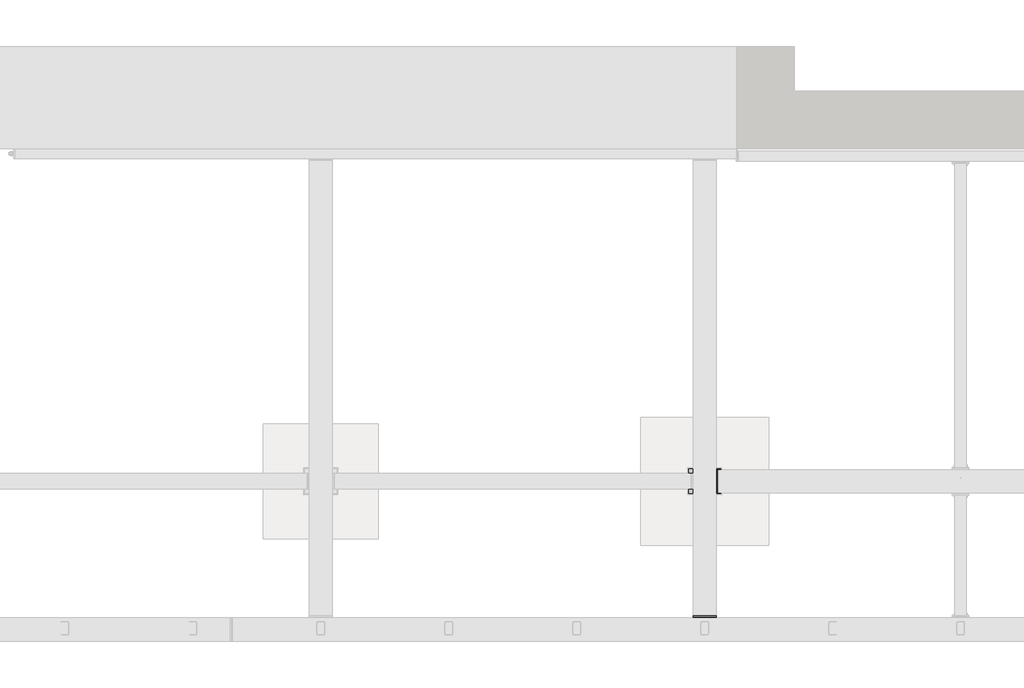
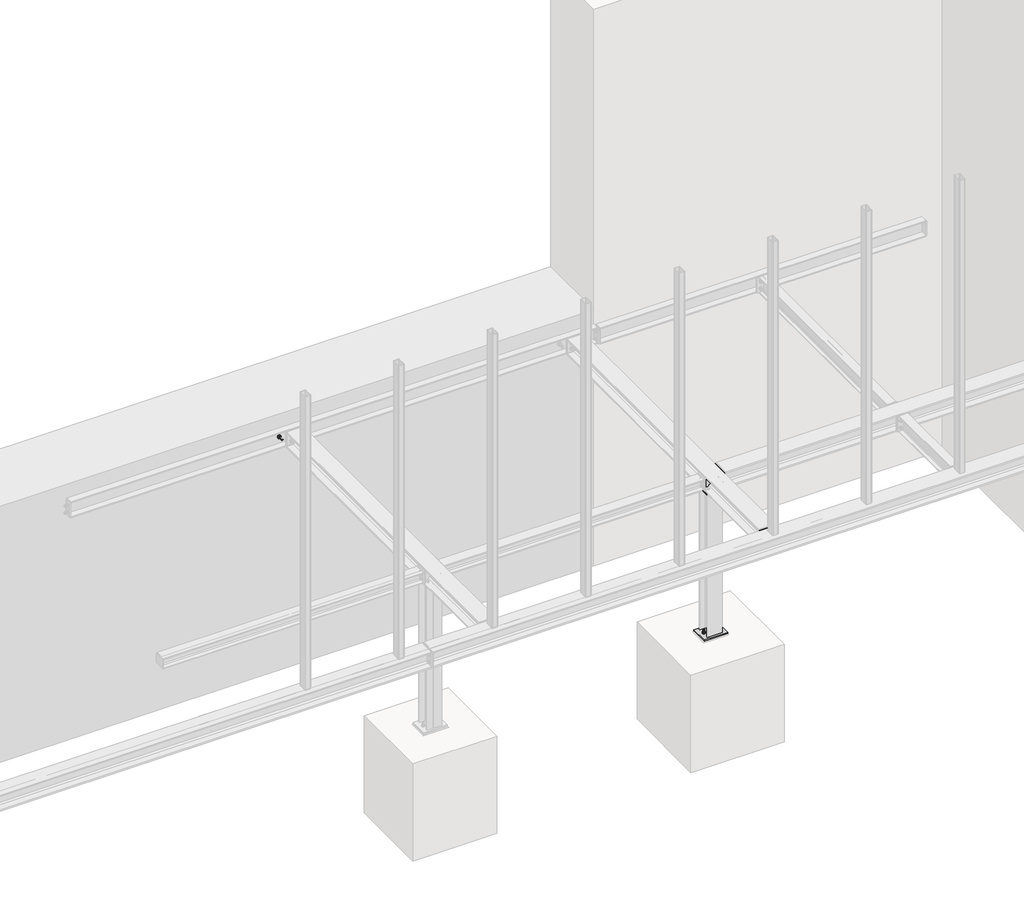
# One storey, part 12 of 31: 12 proxies.
"""IFC4 building model written with IfcOpenShell, lengths in millimetres."""

from ifc_helpers import new_model, si_unit, point, frame, frame_2d, origin, place, context, project, spatial, polyline, circle_curve, trimmed, segment, composite_curve, outline, extrude, element, save

model = new_model("IFC4")

# Units and contexts
model_context = context("Model", 3, world=origin())
ifc_project = project(units=[si_unit("LENGTHUNIT", "METRE", prefix="MILLI")], contexts=[model_context])

# Site, building, storey
site = spatial("IfcSite", under=ifc_project)
building = spatial("IfcBuilding", under=site)
storey = spatial("IfcBuildingStorey", under=building, Name="Základy", Elevation=-1200.0)

# Proxies
placement = place(None, origin())
element("IfcBuildingElementProxy", 1, Name="PLECH", ObjectType="PLECH", at=placement, inside=storey, context=model_context, shape_type="SweptSolid", body=[
    extrude(outline(polyline([(12140.0, 1170.0), (12140.0, 1350.0), (12150.0, 1350.0), (12150.0, 1170.0), (12140.0, 1170.0)])), frame((0.0, 0.0, -332.0), z_axis=(0.0, 0.0, 1.0), x_axis=(1.0, 0.0, 0.0)), (0.0, 0.0, 1.0), 164.0),
])
element("IfcBuildingElementProxy", 2, Name="PLECH", ObjectType="PLECH", at=placement, inside=storey, context=model_context, shape_type="SweptSolid", body=[
    extrude(outline(composite_curve([segment(polyline([(-174.0, 12140.0), (-174.0, 12079.5)]), True, "CONTINUOUS"), segment(trimmed(circle_curve(frame_2d((-174.0, 12054.5)), 25.0), [point((-174.0, 12079.5))], [point((-199.0, 12054.5))], True, "CARTESIAN"), True, "CONTINUOUS"), segment(polyline([(-199.0, 12054.5), (-301.0, 12054.5)]), True, "CONTINUOUS"), segment(trimmed(circle_curve(frame_2d((-326.0, 12054.5)), 25.0), [point((-301.0, 12054.5))], [point((-326.0, 12079.5))], True, "CARTESIAN"), True, "CONTINUOUS"), segment(polyline([(-326.0, 12079.5), (-326.0, 12140.0), (-174.0, 12140.0)]), True, "CONTINUOUS")], self_intersect=False)), frame((0.0, 1256.0, 0.0), z_axis=(0.0, 1.0, 0.0), x_axis=(0.0, 0.0, 1.0)), (0.0, 0.0, 1.0), 8.0),
])
element("IfcBuildingElementProxy", 3, Name="PLECH", ObjectType="PLECH", at=placement, inside=storey, context=model_context, shape_type="SweptSolid", body=[
    extrude(outline(composite_curve([segment(polyline([(-174.0, 11960.0), (-326.0, 11960.0), (-326.0, 12020.5)]), True, "CONTINUOUS"), segment(trimmed(circle_curve(frame_2d((-326.0, 12045.5)), 25.0), [point((-326.0, 12020.5))], [point((-301.0, 12045.5))], True, "CARTESIAN"), True, "CONTINUOUS"), segment(polyline([(-301.0, 12045.5), (-199.0, 12045.5)]), True, "CONTINUOUS"), segment(trimmed(circle_curve(frame_2d((-174.0, 12045.5)), 25.0), [point((-199.0, 12045.5))], [point((-174.0, 12020.5))], True, "CARTESIAN"), True, "CONTINUOUS"), segment(polyline([(-174.0, 12020.5), (-174.0, 11960.0)]), True, "CONTINUOUS")], self_intersect=False)), frame((0.0, 1256.0, 0.0), z_axis=(0.0, 1.0, 0.0), x_axis=(0.0, 0.0, 1.0)), (0.0, 0.0, 1.0), 8.0),
])
element("IfcBuildingElementProxy", 4, Name="PLECH", ObjectType="PLECH", at=placement, inside=storey, context=model_context, shape_type="SweptSolid", body=[
    extrude(outline(polyline([(11960.0, 210.0), (12140.0, 210.0), (12140.0, 200.0), (11960.0, 200.0), (11960.0, 210.0)])), frame((0.0, 0.0, -332.0), z_axis=(0.0, 0.0, 1.0), x_axis=(1.0, 0.0, 0.0)), (0.0, 0.0, 1.0), 164.0),
])
element("IfcBuildingElementProxy", 5, Name="PLECH", ObjectType="PLECH", at=placement, inside=storey, context=model_context, shape_type="SweptSolid", body=[
    extrude(outline(polyline([(12175.0, 1356.0), (12175.0, 1164.0), (11925.0, 1164.0), (11925.0, 1356.0), (12175.0, 1356.0)])), frame((0.0, 0.0, -1990.0), z_axis=(0.0, 0.0, 1.0), x_axis=(1.0, 0.0, 0.0)), (0.0, 0.0, 1.0), 15.0),
])
element("IfcBuildingElementProxy", 6, Name="PLECH", ObjectType="PLECH", at=placement, inside=storey, context=model_context, shape_type="SweptSolid", body=[
    extrude(outline(polyline([(12140.0, 1346.0), (12140.0, 1174.0), (11960.0, 1174.0), (11960.0, 1346.0), (12140.0, 1346.0)])), frame((0.0, 0.0, -350.0), z_axis=(0.0, 0.0, 1.0), x_axis=(1.0, 0.0, 0.0)), (0.0, 0.0, 1.0), 10.0),
])
element("IfcBuildingElementProxy", 7, Name="PLECH", ObjectType="PLECH", at=placement, inside=storey, context=model_context, shape_type="SweptSolid", body=[
    extrude(outline(composite_curve([segment(polyline([(190.0, -174.0), (190.0, -326.0), (124.25, -326.0)]), True, "CONTINUOUS"), segment(trimmed(circle_curve(frame_2d((104.25, -326.0)), 20.0), [point((124.25, -326.0))], [point((104.25, -306.0))], True, "CARTESIAN"), True, "CONTINUOUS"), segment(polyline([(104.25, -306.0), (104.25, -194.0)]), True, "CONTINUOUS"), segment(trimmed(circle_curve(frame_2d((104.25, -174.0)), 20.0), [point((104.25, -194.0))], [point((124.25, -174.0))], True, "CARTESIAN"), True, "CONTINUOUS"), segment(polyline([(124.25, -174.0), (190.0, -174.0)]), True, "CONTINUOUS")], self_intersect=False)), frame((12046.0, 0.0, 0.0), z_axis=(1.0, 0.0, 0.0), x_axis=(0.0, 1.0, 0.0)), (0.0, 0.0, 1.0), 8.0),
])
element("IfcBuildingElementProxy", 8, Name="PLECH", ObjectType="PLECH", at=placement, inside=storey, context=model_context, shape_type="SweptSolid", body=[
    extrude(outline(polyline([(11960.0, 200.0), (12140.0, 200.0), (12140.0, 190.0), (11960.0, 190.0), (11960.0, 200.0)])), frame((0.0, 0.0, -332.0), z_axis=(0.0, 0.0, 1.0), x_axis=(1.0, 0.0, 0.0)), (0.0, 0.0, 1.0), 164.0),
])
element("IfcBuildingElementProxy", 9, Name="Bolt assembly", ObjectType="Bolt assembly", at=placement, inside=storey, context=model_context, shape_type="SweptSolid", body=[
    extrude(outline(composite_curve([segment(trimmed(circle_curve(frame_2d((1305.0, -210.0)), 8.5), [point((1305.0, -218.5))], [point((1305.0, -201.5))], False, "CARTESIAN"), True, "CONTINUOUS"), segment(trimmed(circle_curve(frame_2d((1305.0, -210.0)), 8.5), [point((1305.0, -201.5))], [point((1305.0, -218.5))], False, "CARTESIAN"), True, "CONTINUOUS")], self_intersect=False)), frame((12140.1, 0.0, 0.0), z_axis=(1.0, 0.0, 0.0), x_axis=(0.0, 1.0, 0.0)), (0.0, 0.0, 1.0), 10.0),
    extrude(outline(polyline([(1305.0, -223.8564065), (1293.0, -216.9282032), (1293.0, -203.0717968), (1305.0, -196.1435935), (1317.0, -203.0717968), (1317.0, -216.9282032), (1305.0, -223.8564065)])), frame((12127.0, 0.0, 0.0), z_axis=(1.0, 0.0, 0.0), x_axis=(0.0, 1.0, 0.0)), (0.0, 0.0, 1.0), 10.0),
    extrude(outline(composite_curve([segment(trimmed(circle_curve(frame_2d((1305.0, -210.0)), 8.0), [point((1305.0, -218.0))], [point((1305.0, -202.0))], False, "CARTESIAN"), True, "CONTINUOUS"), segment(trimmed(circle_curve(frame_2d((1305.0, -210.0)), 8.0), [point((1305.0, -202.0))], [point((1305.0, -218.0))], False, "CARTESIAN"), True, "CONTINUOUS")], self_intersect=False)), frame((12137.0, 0.0, 0.0), z_axis=(1.0, 0.0, 0.0), x_axis=(0.0, 1.0, 0.0)), (0.0, 0.0, 1.0), 45.0),
    extrude(outline(composite_curve([segment(trimmed(circle_curve(frame_2d((1305.0, -210.0)), 15.0), [point((1305.0, -225.0))], [point((1305.0, -195.0))], False, "CARTESIAN"), True, "CONTINUOUS"), segment(trimmed(circle_curve(frame_2d((1305.0, -210.0)), 15.0), [point((1305.0, -195.0))], [point((1305.0, -225.0))], False, "CARTESIAN"), True, "CONTINUOUS")], self_intersect=False)), frame((12137.0, 0.0, 0.0), z_axis=(1.0, 0.0, 0.0), x_axis=(0.0, 1.0, 0.0)), (0.0, 0.0, 1.0), 3.0),
    extrude(outline(composite_curve([segment(trimmed(circle_curve(frame_2d((1305.0, -210.0)), 15.0), [point((1305.0, -225.0))], [point((1305.0, -195.0))], False, "CARTESIAN"), True, "CONTINUOUS"), segment(trimmed(circle_curve(frame_2d((1305.0, -210.0)), 15.0), [point((1305.0, -195.0))], [point((1305.0, -225.0))], False, "CARTESIAN"), True, "CONTINUOUS")], self_intersect=False)), frame((12160.0, 0.0, 0.0), z_axis=(1.0, 0.0, 0.0), x_axis=(0.0, 1.0, 0.0)), (0.0, 0.0, 1.0), 3.0),
    extrude(outline(polyline([(1305.0, -225.4441197), (1291.625, -217.7220599), (1291.625, -202.2779401), (1305.0, -194.5558803), (1318.375, -202.2779401), (1318.375, -217.7220599), (1305.0, -225.4441197)])), frame((12163.0, 0.0, 0.0), z_axis=(1.0, 0.0, 0.0), x_axis=(0.0, 1.0, 0.0)), (0.0, 0.0, 1.0), 13.0),
    extrude(outline(composite_curve([segment(trimmed(circle_curve(frame_2d((1305.0, -210.0)), 8.5), [point((1305.0, -218.5))], [point((1305.0, -201.5))], False, "CARTESIAN"), True, "CONTINUOUS"), segment(trimmed(circle_curve(frame_2d((1305.0, -210.0)), 8.5), [point((1305.0, -201.5))], [point((1305.0, -218.5))], False, "CARTESIAN"), True, "CONTINUOUS")], self_intersect=False)), frame((12149.9, 0.0, 0.0), z_axis=(1.0, 0.0, 0.0), x_axis=(0.0, 1.0, 0.0)), (0.0, 0.0, 1.0), 10.1),
    extrude(outline(composite_curve([segment(trimmed(circle_curve(frame_2d((1305.0, -290.0)), 8.5), [point((1305.0, -298.5))], [point((1305.0, -281.5))], False, "CARTESIAN"), True, "CONTINUOUS"), segment(trimmed(circle_curve(frame_2d((1305.0, -290.0)), 8.5), [point((1305.0, -281.5))], [point((1305.0, -298.5))], False, "CARTESIAN"), True, "CONTINUOUS")], self_intersect=False)), frame((12140.1, 0.0, 0.0), z_axis=(1.0, 0.0, 0.0), x_axis=(0.0, 1.0, 0.0)), (0.0, 0.0, 1.0), 10.0),
    extrude(outline(polyline([(1305.0, -303.8564065), (1293.0, -296.9282032), (1293.0, -283.0717968), (1305.0, -276.1435935), (1317.0, -283.0717968), (1317.0, -296.9282032), (1305.0, -303.8564065)])), frame((12127.0, 0.0, 0.0), z_axis=(1.0, 0.0, 0.0), x_axis=(0.0, 1.0, 0.0)), (0.0, 0.0, 1.0), 10.0),
    extrude(outline(composite_curve([segment(trimmed(circle_curve(frame_2d((1305.0, -290.0)), 8.0), [point((1305.0, -298.0))], [point((1305.0, -282.0))], False, "CARTESIAN"), True, "CONTINUOUS"), segment(trimmed(circle_curve(frame_2d((1305.0, -290.0)), 8.0), [point((1305.0, -282.0))], [point((1305.0, -298.0))], False, "CARTESIAN"), True, "CONTINUOUS")], self_intersect=False)), frame((12137.0, 0.0, 0.0), z_axis=(1.0, 0.0, 0.0), x_axis=(0.0, 1.0, 0.0)), (0.0, 0.0, 1.0), 45.0),
    extrude(outline(composite_curve([segment(trimmed(circle_curve(frame_2d((1305.0, -290.0)), 15.0), [point((1305.0, -305.0))], [point((1305.0, -275.0))], False, "CARTESIAN"), True, "CONTINUOUS"), segment(trimmed(circle_curve(frame_2d((1305.0, -290.0)), 15.0), [point((1305.0, -275.0))], [point((1305.0, -305.0))], False, "CARTESIAN"), True, "CONTINUOUS")], self_intersect=False)), frame((12137.0, 0.0, 0.0), z_axis=(1.0, 0.0, 0.0), x_axis=(0.0, 1.0, 0.0)), (0.0, 0.0, 1.0), 3.0),
    extrude(outline(composite_curve([segment(trimmed(circle_curve(frame_2d((1305.0, -290.0)), 15.0), [point((1305.0, -305.0))], [point((1305.0, -275.0))], False, "CARTESIAN"), True, "CONTINUOUS"), segment(trimmed(circle_curve(frame_2d((1305.0, -290.0)), 15.0), [point((1305.0, -275.0))], [point((1305.0, -305.0))], False, "CARTESIAN"), True, "CONTINUOUS")], self_intersect=False)), frame((12160.0, 0.0, 0.0), z_axis=(1.0, 0.0, 0.0), x_axis=(0.0, 1.0, 0.0)), (0.0, 0.0, 1.0), 3.0),
    extrude(outline(polyline([(1305.0, -305.4441197), (1291.625, -297.7220599), (1291.625, -282.2779401), (1305.0, -274.5558803), (1318.375, -282.2779401), (1318.375, -297.7220599), (1305.0, -305.4441197)])), frame((12163.0, 0.0, 0.0), z_axis=(1.0, 0.0, 0.0), x_axis=(0.0, 1.0, 0.0)), (0.0, 0.0, 1.0), 13.0),
    extrude(outline(composite_curve([segment(trimmed(circle_curve(frame_2d((1305.0, -290.0)), 8.5), [point((1305.0, -298.5))], [point((1305.0, -281.5))], False, "CARTESIAN"), True, "CONTINUOUS"), segment(trimmed(circle_curve(frame_2d((1305.0, -290.0)), 8.5), [point((1305.0, -281.5))], [point((1305.0, -298.5))], False, "CARTESIAN"), True, "CONTINUOUS")], self_intersect=False)), frame((12149.9, 0.0, 0.0), z_axis=(1.0, 0.0, 0.0), x_axis=(0.0, 1.0, 0.0)), (0.0, 0.0, 1.0), 10.1),
    extrude(outline(composite_curve([segment(trimmed(circle_curve(frame_2d((1215.0, -210.0)), 8.5), [point((1215.0, -218.5))], [point((1215.0, -201.5))], False, "CARTESIAN"), True, "CONTINUOUS"), segment(trimmed(circle_curve(frame_2d((1215.0, -210.0)), 8.5), [point((1215.0, -201.5))], [point((1215.0, -218.5))], False, "CARTESIAN"), True, "CONTINUOUS")], self_intersect=False)), frame((12140.1, 0.0, 0.0), z_axis=(1.0, 0.0, 0.0), x_axis=(0.0, 1.0, 0.0)), (0.0, 0.0, 1.0), 10.0),
    extrude(outline(polyline([(1215.0, -223.8564065), (1203.0, -216.9282032), (1203.0, -203.0717968), (1215.0, -196.1435935), (1227.0, -203.0717968), (1227.0, -216.9282032), (1215.0, -223.8564065)])), frame((12127.0, 0.0, 0.0), z_axis=(1.0, 0.0, 0.0), x_axis=(0.0, 1.0, 0.0)), (0.0, 0.0, 1.0), 10.0),
    extrude(outline(composite_curve([segment(trimmed(circle_curve(frame_2d((1215.0, -210.0)), 8.0), [point((1215.0, -218.0))], [point((1215.0, -202.0))], False, "CARTESIAN"), True, "CONTINUOUS"), segment(trimmed(circle_curve(frame_2d((1215.0, -210.0)), 8.0), [point((1215.0, -202.0))], [point((1215.0, -218.0))], False, "CARTESIAN"), True, "CONTINUOUS")], self_intersect=False)), frame((12137.0, 0.0, 0.0), z_axis=(1.0, 0.0, 0.0), x_axis=(0.0, 1.0, 0.0)), (0.0, 0.0, 1.0), 45.0),
    extrude(outline(composite_curve([segment(trimmed(circle_curve(frame_2d((1215.0, -210.0)), 15.0), [point((1215.0, -225.0))], [point((1215.0, -195.0))], False, "CARTESIAN"), True, "CONTINUOUS"), segment(trimmed(circle_curve(frame_2d((1215.0, -210.0)), 15.0), [point((1215.0, -195.0))], [point((1215.0, -225.0))], False, "CARTESIAN"), True, "CONTINUOUS")], self_intersect=False)), frame((12137.0, 0.0, 0.0), z_axis=(1.0, 0.0, 0.0), x_axis=(0.0, 1.0, 0.0)), (0.0, 0.0, 1.0), 3.0),
    extrude(outline(composite_curve([segment(trimmed(circle_curve(frame_2d((1215.0, -210.0)), 15.0), [point((1215.0, -225.0))], [point((1215.0, -195.0))], False, "CARTESIAN"), True, "CONTINUOUS"), segment(trimmed(circle_curve(frame_2d((1215.0, -210.0)), 15.0), [point((1215.0, -195.0))], [point((1215.0, -225.0))], False, "CARTESIAN"), True, "CONTINUOUS")], self_intersect=False)), frame((12160.0, 0.0, 0.0), z_axis=(1.0, 0.0, 0.0), x_axis=(0.0, 1.0, 0.0)), (0.0, 0.0, 1.0), 3.0),
    extrude(outline(polyline([(1215.0, -225.4441197), (1201.625, -217.7220599), (1201.625, -202.2779401), (1215.0, -194.5558803), (1228.375, -202.2779401), (1228.375, -217.7220599), (1215.0, -225.4441197)])), frame((12163.0, 0.0, 0.0), z_axis=(1.0, 0.0, 0.0), x_axis=(0.0, 1.0, 0.0)), (0.0, 0.0, 1.0), 13.0),
    extrude(outline(composite_curve([segment(trimmed(circle_curve(frame_2d((1215.0, -210.0)), 8.5), [point((1215.0, -218.5))], [point((1215.0, -201.5))], False, "CARTESIAN"), True, "CONTINUOUS"), segment(trimmed(circle_curve(frame_2d((1215.0, -210.0)), 8.5), [point((1215.0, -201.5))], [point((1215.0, -218.5))], False, "CARTESIAN"), True, "CONTINUOUS")], self_intersect=False)), frame((12149.9, 0.0, 0.0), z_axis=(1.0, 0.0, 0.0), x_axis=(0.0, 1.0, 0.0)), (0.0, 0.0, 1.0), 10.1),
    extrude(outline(composite_curve([segment(trimmed(circle_curve(frame_2d((1215.0, -290.0)), 8.5), [point((1215.0, -298.5))], [point((1215.0, -281.5))], False, "CARTESIAN"), True, "CONTINUOUS"), segment(trimmed(circle_curve(frame_2d((1215.0, -290.0)), 8.5), [point((1215.0, -281.5))], [point((1215.0, -298.5))], False, "CARTESIAN"), True, "CONTINUOUS")], self_intersect=False)), frame((12140.1, 0.0, 0.0), z_axis=(1.0, 0.0, 0.0), x_axis=(0.0, 1.0, 0.0)), (0.0, 0.0, 1.0), 10.0),
    extrude(outline(polyline([(1215.0, -303.8564065), (1203.0, -296.9282032), (1203.0, -283.0717968), (1215.0, -276.1435935), (1227.0, -283.0717968), (1227.0, -296.9282032), (1215.0, -303.8564065)])), frame((12127.0, 0.0, 0.0), z_axis=(1.0, 0.0, 0.0), x_axis=(0.0, 1.0, 0.0)), (0.0, 0.0, 1.0), 10.0),
    extrude(outline(composite_curve([segment(trimmed(circle_curve(frame_2d((1215.0, -290.0)), 8.0), [point((1215.0, -298.0))], [point((1215.0, -282.0))], False, "CARTESIAN"), True, "CONTINUOUS"), segment(trimmed(circle_curve(frame_2d((1215.0, -290.0)), 8.0), [point((1215.0, -282.0))], [point((1215.0, -298.0))], False, "CARTESIAN"), True, "CONTINUOUS")], self_intersect=False)), frame((12137.0, 0.0, 0.0), z_axis=(1.0, 0.0, 0.0), x_axis=(0.0, 1.0, 0.0)), (0.0, 0.0, 1.0), 45.0),
    extrude(outline(composite_curve([segment(trimmed(circle_curve(frame_2d((1215.0, -290.0)), 15.0), [point((1215.0, -305.0))], [point((1215.0, -275.0))], False, "CARTESIAN"), True, "CONTINUOUS"), segment(trimmed(circle_curve(frame_2d((1215.0, -290.0)), 15.0), [point((1215.0, -275.0))], [point((1215.0, -305.0))], False, "CARTESIAN"), True, "CONTINUOUS")], self_intersect=False)), frame((12137.0, 0.0, 0.0), z_axis=(1.0, 0.0, 0.0), x_axis=(0.0, 1.0, 0.0)), (0.0, 0.0, 1.0), 3.0),
    extrude(outline(composite_curve([segment(trimmed(circle_curve(frame_2d((1215.0, -290.0)), 15.0), [point((1215.0, -305.0))], [point((1215.0, -275.0))], False, "CARTESIAN"), True, "CONTINUOUS"), segment(trimmed(circle_curve(frame_2d((1215.0, -290.0)), 15.0), [point((1215.0, -275.0))], [point((1215.0, -305.0))], False, "CARTESIAN"), True, "CONTINUOUS")], self_intersect=False)), frame((12160.0, 0.0, 0.0), z_axis=(1.0, 0.0, 0.0), x_axis=(0.0, 1.0, 0.0)), (0.0, 0.0, 1.0), 3.0),
    extrude(outline(polyline([(1215.0, -305.4441197), (1201.625, -297.7220599), (1201.625, -282.2779401), (1215.0, -274.5558803), (1228.375, -282.2779401), (1228.375, -297.7220599), (1215.0, -305.4441197)])), frame((12163.0, 0.0, 0.0), z_axis=(1.0, 0.0, 0.0), x_axis=(0.0, 1.0, 0.0)), (0.0, 0.0, 1.0), 13.0),
    extrude(outline(composite_curve([segment(trimmed(circle_curve(frame_2d((1215.0, -290.0)), 8.5), [point((1215.0, -298.5))], [point((1215.0, -281.5))], False, "CARTESIAN"), True, "CONTINUOUS"), segment(trimmed(circle_curve(frame_2d((1215.0, -290.0)), 8.5), [point((1215.0, -281.5))], [point((1215.0, -298.5))], False, "CARTESIAN"), True, "CONTINUOUS")], self_intersect=False)), frame((12149.9, 0.0, 0.0), z_axis=(1.0, 0.0, 0.0), x_axis=(0.0, 1.0, 0.0)), (0.0, 0.0, 1.0), 10.1),
])
element("IfcBuildingElementProxy", 10, Name="Bolt assembly", ObjectType="Bolt assembly", at=placement, inside=storey, context=model_context, shape_type="SweptSolid", body=[
    extrude(outline(polyline([(11982.7364934, 1260.0), (11978.8682467, 1253.3000002), (11971.1317533, 1253.3000002), (11967.2635066, 1260.0), (11971.1317533, 1266.6999998), (11978.8682467, 1266.6999998), (11982.7364934, 1260.0)])), frame((0.0, 0.0, -2122.0), z_axis=(0.0, 0.0, 1.0), x_axis=(1.0, 0.0, 0.0)), (0.0, 0.0, 1.0), 132.0),
    extrude(outline(composite_curve([segment(trimmed(circle_curve(frame_2d((11975.0, 1260.0)), 8.0), [point((11983.0, 1260.0))], [point((11967.0, 1260.0))], False, "CARTESIAN"), True, "CONTINUOUS"), segment(trimmed(circle_curve(frame_2d((11975.0, 1260.0)), 8.0), [point((11967.0, 1260.0))], [point((11983.0, 1260.0))], False, "CARTESIAN"), True, "CONTINUOUS")], self_intersect=False)), frame((0.0, 0.0, -1990.0), z_axis=(0.0, 0.0, 1.0), x_axis=(1.0, 0.0, 0.0)), (0.0, 0.0, 1.0), 58.0),
    extrude(outline(composite_curve([segment(trimmed(circle_curve(frame_2d((11975.0, 1260.0)), 15.0), [point((11990.0, 1260.0))], [point((11960.0, 1260.0))], False, "CARTESIAN"), True, "CONTINUOUS"), segment(trimmed(circle_curve(frame_2d((11975.0, 1260.0)), 15.0), [point((11960.0, 1260.0))], [point((11990.0, 1260.0))], False, "CARTESIAN"), True, "CONTINUOUS")], self_intersect=False)), frame((0.0, 0.0, -1975.0), z_axis=(0.0, 0.0, 1.0), x_axis=(1.0, 0.0, 0.0)), (0.0, 0.0, 1.0), 3.0),
    extrude(outline(polyline([(11990.4441197, 1260.0), (11982.7220599, 1246.625), (11967.2779401, 1246.625), (11959.5558803, 1260.0), (11967.2779401, 1273.375), (11982.7220599, 1273.375), (11990.4441197, 1260.0)])), frame((0.0, 0.0, -1972.0), z_axis=(0.0, 0.0, 1.0), x_axis=(1.0, 0.0, 0.0)), (0.0, 0.0, 1.0), 13.0),
    extrude(outline(composite_curve([segment(trimmed(circle_curve(frame_2d((11975.0, 1260.0)), 9.0), [point((11984.0, 1260.0))], [point((11966.0, 1260.0))], False, "CARTESIAN"), True, "CONTINUOUS"), segment(trimmed(circle_curve(frame_2d((11975.0, 1260.0)), 9.0), [point((11966.0, 1260.0))], [point((11984.0, 1260.0))], False, "CARTESIAN"), True, "CONTINUOUS")], self_intersect=False)), frame((0.0, 0.0, -1990.0), z_axis=(0.0, 0.0, 1.0), x_axis=(1.0, 0.0, 0.0)), (0.0, 0.0, 1.0), 15.1),
    extrude(outline(polyline([(12132.7364934, 1260.0), (12128.8682467, 1253.3000002), (12121.1317533, 1253.3000002), (12117.2635066, 1260.0), (12121.1317533, 1266.6999998), (12128.8682467, 1266.6999998), (12132.7364934, 1260.0)])), frame((0.0, 0.0, -2122.0), z_axis=(0.0, 0.0, 1.0), x_axis=(1.0, 0.0, 0.0)), (0.0, 0.0, 1.0), 132.0),
    extrude(outline(composite_curve([segment(trimmed(circle_curve(frame_2d((12125.0, 1260.0)), 8.0), [point((12133.0, 1260.0))], [point((12117.0, 1260.0))], False, "CARTESIAN"), True, "CONTINUOUS"), segment(trimmed(circle_curve(frame_2d((12125.0, 1260.0)), 8.0), [point((12117.0, 1260.0))], [point((12133.0, 1260.0))], False, "CARTESIAN"), True, "CONTINUOUS")], self_intersect=False)), frame((0.0, 0.0, -1990.0), z_axis=(0.0, 0.0, 1.0), x_axis=(1.0, 0.0, 0.0)), (0.0, 0.0, 1.0), 58.0),
    extrude(outline(composite_curve([segment(trimmed(circle_curve(frame_2d((12125.0, 1260.0)), 15.0), [point((12140.0, 1260.0))], [point((12110.0, 1260.0))], False, "CARTESIAN"), True, "CONTINUOUS"), segment(trimmed(circle_curve(frame_2d((12125.0, 1260.0)), 15.0), [point((12110.0, 1260.0))], [point((12140.0, 1260.0))], False, "CARTESIAN"), True, "CONTINUOUS")], self_intersect=False)), frame((0.0, 0.0, -1975.0), z_axis=(0.0, 0.0, 1.0), x_axis=(1.0, 0.0, 0.0)), (0.0, 0.0, 1.0), 3.0),
    extrude(outline(polyline([(12140.4441197, 1260.0), (12132.7220599, 1246.625), (12117.2779401, 1246.625), (12109.5558803, 1260.0), (12117.2779401, 1273.375), (12132.7220599, 1273.375), (12140.4441197, 1260.0)])), frame((0.0, 0.0, -1972.0), z_axis=(0.0, 0.0, 1.0), x_axis=(1.0, 0.0, 0.0)), (0.0, 0.0, 1.0), 13.0),
    extrude(outline(composite_curve([segment(trimmed(circle_curve(frame_2d((12125.0, 1260.0)), 9.0), [point((12134.0, 1260.0))], [point((12116.0, 1260.0))], False, "CARTESIAN"), True, "CONTINUOUS"), segment(trimmed(circle_curve(frame_2d((12125.0, 1260.0)), 9.0), [point((12116.0, 1260.0))], [point((12134.0, 1260.0))], False, "CARTESIAN"), True, "CONTINUOUS")], self_intersect=False)), frame((0.0, 0.0, -1990.0), z_axis=(0.0, 0.0, 1.0), x_axis=(1.0, 0.0, 0.0)), (0.0, 0.0, 1.0), 15.1),
])
element("IfcBuildingElementProxy", 11, Name="Bolt assembly", ObjectType="Bolt assembly", at=placement, inside=storey, context=model_context, shape_type="SweptSolid", body=[
    extrude(outline(polyline([(-250.0, 8934.8149546), (-241.5, 8929.9074773), (-241.5, 8920.0925227), (-250.0, 8915.1850454), (-258.5, 8920.0925227), (-258.5, 8929.9074773), (-250.0, 8934.8149546)])), frame((0.0, 3860.0, 0.0), z_axis=(0.0, 1.0, 0.0), x_axis=(0.0, 0.0, 1.0)), (0.0, 0.0, 1.0), 168.0),
    extrude(outline(composite_curve([segment(trimmed(circle_curve(frame_2d((-250.0, 8925.0)), 10.0), [point((-250.0, 8935.0))], [point((-250.0, 8915.0))], False, "CARTESIAN"), True, "CONTINUOUS"), segment(trimmed(circle_curve(frame_2d((-250.0, 8925.0)), 10.0), [point((-250.0, 8915.0))], [point((-250.0, 8935.0))], False, "CARTESIAN"), True, "CONTINUOUS")], self_intersect=False)), frame((0.0, 3788.0, 0.0), z_axis=(0.0, 1.0, 0.0), x_axis=(0.0, 0.0, 1.0)), (0.0, 0.0, 1.0), 72.0),
    extrude(outline(composite_curve([segment(trimmed(circle_curve(frame_2d((-250.0, 8925.0)), 18.5), [point((-250.0, 8943.5))], [point((-250.0, 8906.5))], False, "CARTESIAN"), True, "CONTINUOUS"), segment(trimmed(circle_curve(frame_2d((-250.0, 8925.0)), 18.5), [point((-250.0, 8906.5))], [point((-250.0, 8943.5))], False, "CARTESIAN"), True, "CONTINUOUS")], self_intersect=False)), frame((0.0, 3851.5, 0.0), z_axis=(0.0, 1.0, 0.0), x_axis=(0.0, 0.0, 1.0)), (0.0, 0.0, 1.0), 3.0),
    extrude(outline(polyline([(-250.0, 8942.3205081), (-235.0, 8933.660254), (-235.0, 8916.339746), (-250.0, 8907.6794919), (-265.0, 8916.339746), (-265.0, 8933.660254), (-250.0, 8942.3205081)])), frame((0.0, 3835.5, 0.0), z_axis=(0.0, 1.0, 0.0), x_axis=(0.0, 0.0, 1.0)), (0.0, 0.0, 1.0), 16.0),
    extrude(outline(composite_curve([segment(trimmed(circle_curve(frame_2d((-250.0, 8925.0)), 11.0), [point((-250.0, 8936.0))], [point((-250.0, 8914.0))], False, "CARTESIAN"), True, "CONTINUOUS"), segment(trimmed(circle_curve(frame_2d((-250.0, 8925.0)), 11.0), [point((-250.0, 8914.0))], [point((-250.0, 8936.0))], False, "CARTESIAN"), True, "CONTINUOUS")], self_intersect=False)), frame((0.0, 3854.4, 0.0), z_axis=(0.0, 1.0, 0.0), x_axis=(0.0, 0.0, 1.0)), (0.0, 0.0, 1.0), 5.6),
    extrude(outline(polyline([(-250.0, 9184.8149546), (-241.5, 9179.9074773), (-241.5, 9170.0925227), (-250.0, 9165.1850454), (-258.5, 9170.0925227), (-258.5, 9179.9074773), (-250.0, 9184.8149546)])), frame((0.0, 3860.0, 0.0), z_axis=(0.0, 1.0, 0.0), x_axis=(0.0, 0.0, 1.0)), (0.0, 0.0, 1.0), 168.0),
    extrude(outline(composite_curve([segment(trimmed(circle_curve(frame_2d((-250.0, 9175.0)), 10.0), [point((-250.0, 9185.0))], [point((-250.0, 9165.0))], False, "CARTESIAN"), True, "CONTINUOUS"), segment(trimmed(circle_curve(frame_2d((-250.0, 9175.0)), 10.0), [point((-250.0, 9165.0))], [point((-250.0, 9185.0))], False, "CARTESIAN"), True, "CONTINUOUS")], self_intersect=False)), frame((0.0, 3788.0, 0.0), z_axis=(0.0, 1.0, 0.0), x_axis=(0.0, 0.0, 1.0)), (0.0, 0.0, 1.0), 72.0),
    extrude(outline(composite_curve([segment(trimmed(circle_curve(frame_2d((-250.0, 9175.0)), 18.5), [point((-250.0, 9193.5))], [point((-250.0, 9156.5))], False, "CARTESIAN"), True, "CONTINUOUS"), segment(trimmed(circle_curve(frame_2d((-250.0, 9175.0)), 18.5), [point((-250.0, 9156.5))], [point((-250.0, 9193.5))], False, "CARTESIAN"), True, "CONTINUOUS")], self_intersect=False)), frame((0.0, 3851.5, 0.0), z_axis=(0.0, 1.0, 0.0), x_axis=(0.0, 0.0, 1.0)), (0.0, 0.0, 1.0), 3.0),
    extrude(outline(polyline([(-250.0, 9192.3205081), (-235.0, 9183.660254), (-235.0, 9166.339746), (-250.0, 9157.6794919), (-265.0, 9166.339746), (-265.0, 9183.660254), (-250.0, 9192.3205081)])), frame((0.0, 3835.5, 0.0), z_axis=(0.0, 1.0, 0.0), x_axis=(0.0, 0.0, 1.0)), (0.0, 0.0, 1.0), 16.0),
    extrude(outline(composite_curve([segment(trimmed(circle_curve(frame_2d((-250.0, 9175.0)), 11.0), [point((-250.0, 9186.0))], [point((-250.0, 9164.0))], False, "CARTESIAN"), True, "CONTINUOUS"), segment(trimmed(circle_curve(frame_2d((-250.0, 9175.0)), 11.0), [point((-250.0, 9164.0))], [point((-250.0, 9186.0))], False, "CARTESIAN"), True, "CONTINUOUS")], self_intersect=False)), frame((0.0, 3854.4, 0.0), z_axis=(0.0, 1.0, 0.0), x_axis=(0.0, 0.0, 1.0)), (0.0, 0.0, 1.0), 5.6),
])
element("IfcBuildingElementProxy", 12, Name="Bolt assembly", ObjectType="Bolt assembly", at=placement, inside=storey, context=model_context, shape_type="SweptSolid", body=[
    extrude(outline(composite_curve([segment(trimmed(circle_curve(frame_2d((-290.0, 12005.0)), 9.0), [point((-290.0, 12014.0))], [point((-290.0, 11996.0))], False, "CARTESIAN"), True, "CONTINUOUS"), segment(trimmed(circle_curve(frame_2d((-290.0, 12005.0)), 9.0), [point((-290.0, 11996.0))], [point((-290.0, 12014.0))], False, "CARTESIAN"), True, "CONTINUOUS")], self_intersect=False)), frame((0.0, 190.1, 0.0), z_axis=(0.0, 1.0, 0.0), x_axis=(0.0, 0.0, 1.0)), (0.0, 0.0, 1.0), 10.0),
    extrude(outline(polyline([(-290.0, 12018.8564065), (-278.0, 12011.9282032), (-278.0, 11998.0717968), (-290.0, 11991.1435935), (-302.0, 11998.0717968), (-302.0, 12011.9282032), (-290.0, 12018.8564065)])), frame((0.0, 177.0, 0.0), z_axis=(0.0, 1.0, 0.0), x_axis=(0.0, 0.0, 1.0)), (0.0, 0.0, 1.0), 10.0),
    extrude(outline(composite_curve([segment(trimmed(circle_curve(frame_2d((-290.0, 12005.0)), 8.0), [point((-290.0, 12013.0))], [point((-290.0, 11997.0))], False, "CARTESIAN"), True, "CONTINUOUS"), segment(trimmed(circle_curve(frame_2d((-290.0, 12005.0)), 8.0), [point((-290.0, 11997.0))], [point((-290.0, 12013.0))], False, "CARTESIAN"), True, "CONTINUOUS")], self_intersect=False)), frame((0.0, 187.0, 0.0), z_axis=(0.0, 1.0, 0.0), x_axis=(0.0, 0.0, 1.0)), (0.0, 0.0, 1.0), 50.0),
    extrude(outline(composite_curve([segment(trimmed(circle_curve(frame_2d((-290.0, 12005.0)), 15.0), [point((-290.0, 12020.0))], [point((-290.0, 11990.0))], False, "CARTESIAN"), True, "CONTINUOUS"), segment(trimmed(circle_curve(frame_2d((-290.0, 12005.0)), 15.0), [point((-290.0, 11990.0))], [point((-290.0, 12020.0))], False, "CARTESIAN"), True, "CONTINUOUS")], self_intersect=False)), frame((0.0, 187.0, 0.0), z_axis=(0.0, 1.0, 0.0), x_axis=(0.0, 0.0, 1.0)), (0.0, 0.0, 1.0), 3.0),
    extrude(outline(composite_curve([segment(trimmed(circle_curve(frame_2d((-290.0, 12005.0)), 15.0), [point((-290.0, 12020.0))], [point((-290.0, 11990.0))], False, "CARTESIAN"), True, "CONTINUOUS"), segment(trimmed(circle_curve(frame_2d((-290.0, 12005.0)), 15.0), [point((-290.0, 11990.0))], [point((-290.0, 12020.0))], False, "CARTESIAN"), True, "CONTINUOUS")], self_intersect=False)), frame((0.0, 210.0, 0.0), z_axis=(0.0, 1.0, 0.0), x_axis=(0.0, 0.0, 1.0)), (0.0, 0.0, 1.0), 3.0),
    extrude(outline(polyline([(-290.0, 12020.4441197), (-276.625, 12012.7220599), (-276.625, 11997.2779401), (-290.0, 11989.5558803), (-303.375, 11997.2779401), (-303.375, 12012.7220599), (-290.0, 12020.4441197)])), frame((0.0, 213.0, 0.0), z_axis=(0.0, 1.0, 0.0), x_axis=(0.0, 0.0, 1.0)), (0.0, 0.0, 1.0), 13.0),
    extrude(outline(composite_curve([segment(trimmed(circle_curve(frame_2d((-290.0, 12005.0)), 9.0), [point((-290.0, 12014.0))], [point((-290.0, 11996.0))], False, "CARTESIAN"), True, "CONTINUOUS"), segment(trimmed(circle_curve(frame_2d((-290.0, 12005.0)), 9.0), [point((-290.0, 11996.0))], [point((-290.0, 12014.0))], False, "CARTESIAN"), True, "CONTINUOUS")], self_intersect=False)), frame((0.0, 199.9, 0.0), z_axis=(0.0, 1.0, 0.0), x_axis=(0.0, 0.0, 1.0)), (0.0, 0.0, 1.0), 10.1),
    extrude(outline(composite_curve([segment(trimmed(circle_curve(frame_2d((-290.0, 12095.0)), 9.0), [point((-290.0, 12104.0))], [point((-290.0, 12086.0))], False, "CARTESIAN"), True, "CONTINUOUS"), segment(trimmed(circle_curve(frame_2d((-290.0, 12095.0)), 9.0), [point((-290.0, 12086.0))], [point((-290.0, 12104.0))], False, "CARTESIAN"), True, "CONTINUOUS")], self_intersect=False)), frame((0.0, 190.1, 0.0), z_axis=(0.0, 1.0, 0.0), x_axis=(0.0, 0.0, 1.0)), (0.0, 0.0, 1.0), 10.0),
    extrude(outline(polyline([(-290.0, 12108.8564065), (-278.0, 12101.9282032), (-278.0, 12088.0717968), (-290.0, 12081.1435935), (-302.0, 12088.0717968), (-302.0, 12101.9282032), (-290.0, 12108.8564065)])), frame((0.0, 177.0, 0.0), z_axis=(0.0, 1.0, 0.0), x_axis=(0.0, 0.0, 1.0)), (0.0, 0.0, 1.0), 10.0),
    extrude(outline(composite_curve([segment(trimmed(circle_curve(frame_2d((-290.0, 12095.0)), 8.0), [point((-290.0, 12103.0))], [point((-290.0, 12087.0))], False, "CARTESIAN"), True, "CONTINUOUS"), segment(trimmed(circle_curve(frame_2d((-290.0, 12095.0)), 8.0), [point((-290.0, 12087.0))], [point((-290.0, 12103.0))], False, "CARTESIAN"), True, "CONTINUOUS")], self_intersect=False)), frame((0.0, 187.0, 0.0), z_axis=(0.0, 1.0, 0.0), x_axis=(0.0, 0.0, 1.0)), (0.0, 0.0, 1.0), 50.0),
    extrude(outline(composite_curve([segment(trimmed(circle_curve(frame_2d((-290.0, 12095.0)), 15.0), [point((-290.0, 12110.0))], [point((-290.0, 12080.0))], False, "CARTESIAN"), True, "CONTINUOUS"), segment(trimmed(circle_curve(frame_2d((-290.0, 12095.0)), 15.0), [point((-290.0, 12080.0))], [point((-290.0, 12110.0))], False, "CARTESIAN"), True, "CONTINUOUS")], self_intersect=False)), frame((0.0, 187.0, 0.0), z_axis=(0.0, 1.0, 0.0), x_axis=(0.0, 0.0, 1.0)), (0.0, 0.0, 1.0), 3.0),
    extrude(outline(composite_curve([segment(trimmed(circle_curve(frame_2d((-290.0, 12095.0)), 15.0), [point((-290.0, 12110.0))], [point((-290.0, 12080.0))], False, "CARTESIAN"), True, "CONTINUOUS"), segment(trimmed(circle_curve(frame_2d((-290.0, 12095.0)), 15.0), [point((-290.0, 12080.0))], [point((-290.0, 12110.0))], False, "CARTESIAN"), True, "CONTINUOUS")], self_intersect=False)), frame((0.0, 210.0, 0.0), z_axis=(0.0, 1.0, 0.0), x_axis=(0.0, 0.0, 1.0)), (0.0, 0.0, 1.0), 3.0),
    extrude(outline(polyline([(-290.0, 12110.4441197), (-276.625, 12102.7220599), (-276.625, 12087.2779401), (-290.0, 12079.5558803), (-303.375, 12087.2779401), (-303.375, 12102.7220599), (-290.0, 12110.4441197)])), frame((0.0, 213.0, 0.0), z_axis=(0.0, 1.0, 0.0), x_axis=(0.0, 0.0, 1.0)), (0.0, 0.0, 1.0), 13.0),
    extrude(outline(composite_curve([segment(trimmed(circle_curve(frame_2d((-290.0, 12095.0)), 9.0), [point((-290.0, 12104.0))], [point((-290.0, 12086.0))], False, "CARTESIAN"), True, "CONTINUOUS"), segment(trimmed(circle_curve(frame_2d((-290.0, 12095.0)), 9.0), [point((-290.0, 12086.0))], [point((-290.0, 12104.0))], False, "CARTESIAN"), True, "CONTINUOUS")], self_intersect=False)), frame((0.0, 199.9, 0.0), z_axis=(0.0, 1.0, 0.0), x_axis=(0.0, 0.0, 1.0)), (0.0, 0.0, 1.0), 10.1),
    extrude(outline(composite_curve([segment(trimmed(circle_curve(frame_2d((-210.0, 12005.0)), 9.0), [point((-210.0, 12014.0))], [point((-210.0, 11996.0))], False, "CARTESIAN"), True, "CONTINUOUS"), segment(trimmed(circle_curve(frame_2d((-210.0, 12005.0)), 9.0), [point((-210.0, 11996.0))], [point((-210.0, 12014.0))], False, "CARTESIAN"), True, "CONTINUOUS")], self_intersect=False)), frame((0.0, 190.1, 0.0), z_axis=(0.0, 1.0, 0.0), x_axis=(0.0, 0.0, 1.0)), (0.0, 0.0, 1.0), 10.0),
    extrude(outline(polyline([(-210.0, 12018.8564065), (-198.0, 12011.9282032), (-198.0, 11998.0717968), (-210.0, 11991.1435935), (-222.0, 11998.0717968), (-222.0, 12011.9282032), (-210.0, 12018.8564065)])), frame((0.0, 177.0, 0.0), z_axis=(0.0, 1.0, 0.0), x_axis=(0.0, 0.0, 1.0)), (0.0, 0.0, 1.0), 10.0),
    extrude(outline(composite_curve([segment(trimmed(circle_curve(frame_2d((-210.0, 12005.0)), 8.0), [point((-210.0, 12013.0))], [point((-210.0, 11997.0))], False, "CARTESIAN"), True, "CONTINUOUS"), segment(trimmed(circle_curve(frame_2d((-210.0, 12005.0)), 8.0), [point((-210.0, 11997.0))], [point((-210.0, 12013.0))], False, "CARTESIAN"), True, "CONTINUOUS")], self_intersect=False)), frame((0.0, 187.0, 0.0), z_axis=(0.0, 1.0, 0.0), x_axis=(0.0, 0.0, 1.0)), (0.0, 0.0, 1.0), 50.0),
    extrude(outline(composite_curve([segment(trimmed(circle_curve(frame_2d((-210.0, 12005.0)), 15.0), [point((-210.0, 12020.0))], [point((-210.0, 11990.0))], False, "CARTESIAN"), True, "CONTINUOUS"), segment(trimmed(circle_curve(frame_2d((-210.0, 12005.0)), 15.0), [point((-210.0, 11990.0))], [point((-210.0, 12020.0))], False, "CARTESIAN"), True, "CONTINUOUS")], self_intersect=False)), frame((0.0, 187.0, 0.0), z_axis=(0.0, 1.0, 0.0), x_axis=(0.0, 0.0, 1.0)), (0.0, 0.0, 1.0), 3.0),
    extrude(outline(composite_curve([segment(trimmed(circle_curve(frame_2d((-210.0, 12005.0)), 15.0), [point((-210.0, 12020.0))], [point((-210.0, 11990.0))], False, "CARTESIAN"), True, "CONTINUOUS"), segment(trimmed(circle_curve(frame_2d((-210.0, 12005.0)), 15.0), [point((-210.0, 11990.0))], [point((-210.0, 12020.0))], False, "CARTESIAN"), True, "CONTINUOUS")], self_intersect=False)), frame((0.0, 210.0, 0.0), z_axis=(0.0, 1.0, 0.0), x_axis=(0.0, 0.0, 1.0)), (0.0, 0.0, 1.0), 3.0),
    extrude(outline(polyline([(-210.0, 12020.4441197), (-196.625, 12012.7220599), (-196.625, 11997.2779401), (-210.0, 11989.5558803), (-223.375, 11997.2779401), (-223.375, 12012.7220599), (-210.0, 12020.4441197)])), frame((0.0, 213.0, 0.0), z_axis=(0.0, 1.0, 0.0), x_axis=(0.0, 0.0, 1.0)), (0.0, 0.0, 1.0), 13.0),
    extrude(outline(composite_curve([segment(trimmed(circle_curve(frame_2d((-210.0, 12005.0)), 9.0), [point((-210.0, 12014.0))], [point((-210.0, 11996.0))], False, "CARTESIAN"), True, "CONTINUOUS"), segment(trimmed(circle_curve(frame_2d((-210.0, 12005.0)), 9.0), [point((-210.0, 11996.0))], [point((-210.0, 12014.0))], False, "CARTESIAN"), True, "CONTINUOUS")], self_intersect=False)), frame((0.0, 199.9, 0.0), z_axis=(0.0, 1.0, 0.0), x_axis=(0.0, 0.0, 1.0)), (0.0, 0.0, 1.0), 10.1),
    extrude(outline(composite_curve([segment(trimmed(circle_curve(frame_2d((-210.0, 12095.0)), 9.0), [point((-210.0, 12104.0))], [point((-210.0, 12086.0))], False, "CARTESIAN"), True, "CONTINUOUS"), segment(trimmed(circle_curve(frame_2d((-210.0, 12095.0)), 9.0), [point((-210.0, 12086.0))], [point((-210.0, 12104.0))], False, "CARTESIAN"), True, "CONTINUOUS")], self_intersect=False)), frame((0.0, 190.1, 0.0), z_axis=(0.0, 1.0, 0.0), x_axis=(0.0, 0.0, 1.0)), (0.0, 0.0, 1.0), 10.0),
    extrude(outline(polyline([(-210.0, 12108.8564065), (-198.0, 12101.9282032), (-198.0, 12088.0717968), (-210.0, 12081.1435935), (-222.0, 12088.0717968), (-222.0, 12101.9282032), (-210.0, 12108.8564065)])), frame((0.0, 177.0, 0.0), z_axis=(0.0, 1.0, 0.0), x_axis=(0.0, 0.0, 1.0)), (0.0, 0.0, 1.0), 10.0),
    extrude(outline(composite_curve([segment(trimmed(circle_curve(frame_2d((-210.0, 12095.0)), 8.0), [point((-210.0, 12103.0))], [point((-210.0, 12087.0))], False, "CARTESIAN"), True, "CONTINUOUS"), segment(trimmed(circle_curve(frame_2d((-210.0, 12095.0)), 8.0), [point((-210.0, 12087.0))], [point((-210.0, 12103.0))], False, "CARTESIAN"), True, "CONTINUOUS")], self_intersect=False)), frame((0.0, 187.0, 0.0), z_axis=(0.0, 1.0, 0.0), x_axis=(0.0, 0.0, 1.0)), (0.0, 0.0, 1.0), 50.0),
    extrude(outline(composite_curve([segment(trimmed(circle_curve(frame_2d((-210.0, 12095.0)), 15.0), [point((-210.0, 12110.0))], [point((-210.0, 12080.0))], False, "CARTESIAN"), True, "CONTINUOUS"), segment(trimmed(circle_curve(frame_2d((-210.0, 12095.0)), 15.0), [point((-210.0, 12080.0))], [point((-210.0, 12110.0))], False, "CARTESIAN"), True, "CONTINUOUS")], self_intersect=False)), frame((0.0, 187.0, 0.0), z_axis=(0.0, 1.0, 0.0), x_axis=(0.0, 0.0, 1.0)), (0.0, 0.0, 1.0), 3.0),
    extrude(outline(composite_curve([segment(trimmed(circle_curve(frame_2d((-210.0, 12095.0)), 15.0), [point((-210.0, 12110.0))], [point((-210.0, 12080.0))], False, "CARTESIAN"), True, "CONTINUOUS"), segment(trimmed(circle_curve(frame_2d((-210.0, 12095.0)), 15.0), [point((-210.0, 12080.0))], [point((-210.0, 12110.0))], False, "CARTESIAN"), True, "CONTINUOUS")], self_intersect=False)), frame((0.0, 210.0, 0.0), z_axis=(0.0, 1.0, 0.0), x_axis=(0.0, 0.0, 1.0)), (0.0, 0.0, 1.0), 3.0),
    extrude(outline(polyline([(-210.0, 12110.4441197), (-196.625, 12102.7220599), (-196.625, 12087.2779401), (-210.0, 12079.5558803), (-223.375, 12087.2779401), (-223.375, 12102.7220599), (-210.0, 12110.4441197)])), frame((0.0, 213.0, 0.0), z_axis=(0.0, 1.0, 0.0), x_axis=(0.0, 0.0, 1.0)), (0.0, 0.0, 1.0), 13.0),
    extrude(outline(composite_curve([segment(trimmed(circle_curve(frame_2d((-210.0, 12095.0)), 9.0), [point((-210.0, 12104.0))], [point((-210.0, 12086.0))], False, "CARTESIAN"), True, "CONTINUOUS"), segment(trimmed(circle_curve(frame_2d((-210.0, 12095.0)), 9.0), [point((-210.0, 12086.0))], [point((-210.0, 12104.0))], False, "CARTESIAN"), True, "CONTINUOUS")], self_intersect=False)), frame((0.0, 199.9, 0.0), z_axis=(0.0, 1.0, 0.0), x_axis=(0.0, 0.0, 1.0)), (0.0, 0.0, 1.0), 10.1),
])

save(model, "model.ifc")
